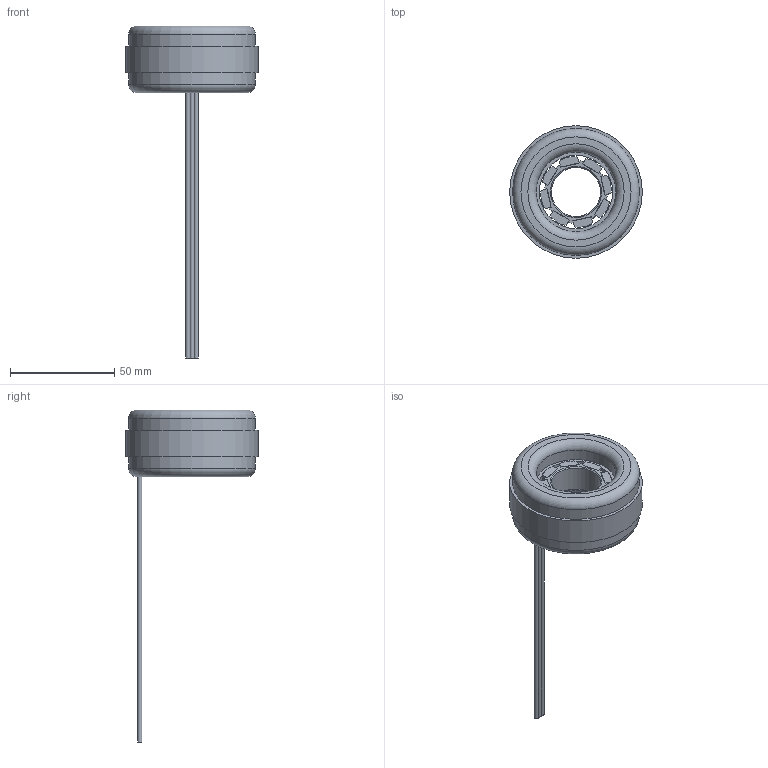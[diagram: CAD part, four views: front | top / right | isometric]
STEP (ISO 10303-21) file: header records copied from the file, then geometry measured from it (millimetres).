
FILE_DESCRIPTION(/* description */ (''),/* implementation_level */ '2;1');
FILE_NAME(/* name */ 'Z:\6. Product Library\1. Motor Library\STEPS\K064050-XX1.stp',/* time_stamp */ '2015-04-29T12:45:29-05:00',/* author */ ('ALA4428'),/* organization */ (''),/* preprocessor_version */ 'ST-DEVELOPER v15.2',/* originating_system */ 'Autodesk Inventor 2014',/* authorisation */ '');
FILE_SCHEMA (('AUTOMOTIVE_DESIGN { 1 0 10303 214 3 1 1 }'));
Length unit declared in the file: centimetre
Products named in the file (1): K064050-XX1
Bounding box: 63.5 x 63.5 x 158.9 mm (x, y, z)
Volume: 65915.8 mm3; surface area: 21323.7 mm2
Topology: 10 solids, 10 shells, 140 faces, 331 edges, 216 vertices
Faces by surface type: plane 107, cylinder 27, torus 4, cone 2
Full cylindrical faces by diameter (mm): 2 x2, 23.495 x1, 35.052 x1, 38.1 x2, 60.7 x2, 63.5 x1
Entity records: 4076 total; most frequent: CARTESIAN_POINT 675, DIRECTION 660, ORIENTED_EDGE 640, EDGE_CURVE 318, LINE 258, VECTOR 258, VERTEX_POINT 216, AXIS2_PLACEMENT_3D 201
